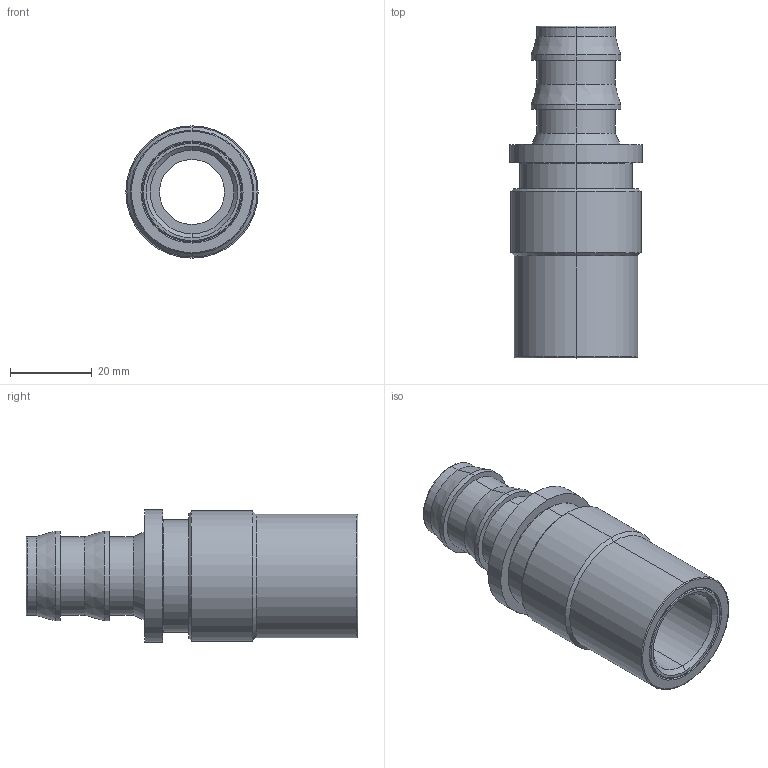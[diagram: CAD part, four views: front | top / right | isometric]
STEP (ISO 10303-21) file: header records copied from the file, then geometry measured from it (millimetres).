
FILE_DESCRIPTION (( 'STEP AP203' ), '1' );
FILE_NAME ('SC506-PL-L.step', '2022-02-03T09:02:05', ( 'Microsoft Corporation' ), ( 'MS' ), 'SwSTEP 2.0', 'SolidWorks 2019', '' );
FILE_SCHEMA (( 'CONFIG_CONTROL_DESIGN' ));
Length unit declared in the file: inch
Products named in the file (1): SC506-PL-L
Bounding box: 32.26 x 80.95 x 32.26 mm (x, y, z)
Volume: 26070.6 mm3; surface area: 22200.1 mm2
Topology: 4 solids, 4 shells, 90 faces, 180 edges, 106 vertices
Faces by surface type: cylinder 40, torus 18, cone 16, plane 16
Entity records: 2441 total; most frequent: DIRECTION 486, CARTESIAN_POINT 377, ORIENTED_EDGE 360, AXIS2_PLACEMENT_3D 215, EDGE_CURVE 180, CIRCLE 124, VERTEX_POINT 106, EDGE_LOOP 106
